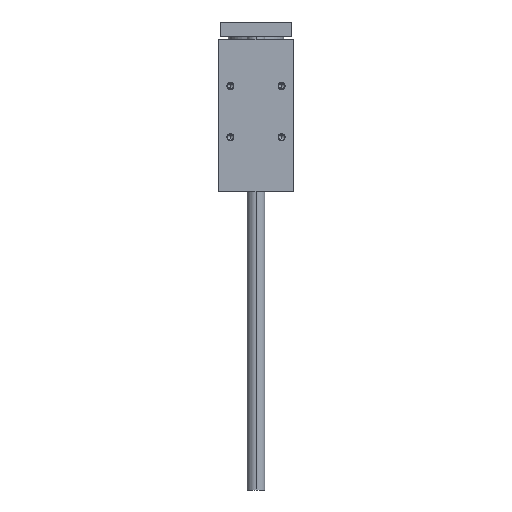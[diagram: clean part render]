
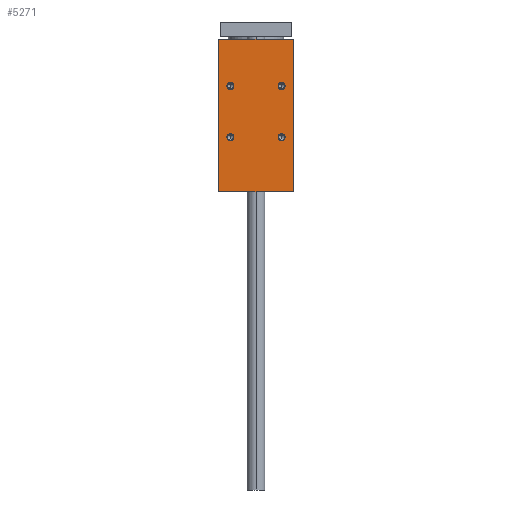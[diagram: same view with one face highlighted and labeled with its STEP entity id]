
A CAD part, left-side view. The second image highlights one B-rep face of the part: STEP entity #5271.
In plain terms, the highlighted planar face has unit normal (-1, 0, 0).
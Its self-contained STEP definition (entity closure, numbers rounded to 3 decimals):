
#15 = CARTESIAN_POINT ( 'NONE',  ( -94.5, -52.5, -128. ) ) ;
#23 = CARTESIAN_POINT ( 'NONE',  ( -94.5, -36., -51. ) ) ;
#136 = FACE_OUTER_BOUND ( 'NONE', #2357, .T. ) ;
#245 = EDGE_CURVE ( 'NONE', #7719, #9258, #3240, .T. ) ;
#288 = EDGE_CURVE ( 'NONE', #3447, #1399, #8954, .T. ) ;
#351 = ORIENTED_EDGE ( 'NONE', *, *, #1312, .T. ) ;
#385 = DIRECTION ( 'NONE',  ( 1., 0., 0. ) ) ;
#591 = DIRECTION ( 'NONE',  ( 1., 0., 0. ) ) ;
#667 = CIRCLE ( 'NONE', #9520, 5. ) ;
#677 = CARTESIAN_POINT ( 'NONE',  ( -94.5, 36., -46. ) ) ;
#882 = EDGE_CURVE ( 'NONE', #8999, #8571, #1658, .T. ) ;
#931 = ORIENTED_EDGE ( 'NONE', *, *, #288, .T. ) ;
#1107 = CARTESIAN_POINT ( 'NONE',  ( -94.5, 52.5, -128. ) ) ;
#1182 = VERTEX_POINT ( 'NONE', #6697 ) ;
#1312 = EDGE_CURVE ( 'NONE', #7479, #3179, #9178, .T. ) ;
#1322 = DIRECTION ( 'NONE',  ( 0., 0., -1. ) ) ;
#1399 = VERTEX_POINT ( 'NONE', #9420 ) ;
#1428 = CARTESIAN_POINT ( 'NONE',  ( -94.5, 36., 21. ) ) ;
#1434 = ORIENTED_EDGE ( 'NONE', *, *, #7464, .T. ) ;
#1474 = CARTESIAN_POINT ( 'NONE',  ( -94.5, 36., 21. ) ) ;
#1596 = DIRECTION ( 'NONE',  ( 0., 0., -1. ) ) ;
#1610 = CARTESIAN_POINT ( 'NONE',  ( -94.5, -52.5, 87. ) ) ;
#1658 = CIRCLE ( 'NONE', #4762, 5. ) ;
#1806 = VECTOR ( 'NONE', #5378, 1000. ) ;
#1955 = EDGE_LOOP ( 'NONE', ( #8333, #931 ) ) ;
#1987 = AXIS2_PLACEMENT_3D ( 'NONE', #5154, #2321, #2960 ) ;
#2214 = DIRECTION ( 'NONE',  ( 0., 0., -1. ) ) ;
#2275 = VERTEX_POINT ( 'NONE', #677 ) ;
#2288 = DIRECTION ( 'NONE',  ( 0., 0., -1. ) ) ;
#2310 = VECTOR ( 'NONE', #6126, 1000. ) ;
#2321 = DIRECTION ( 'NONE',  ( 1., 0., 0. ) ) ;
#2357 = EDGE_LOOP ( 'NONE', ( #351, #5231, #6213, #8564 ) ) ;
#2386 = LINE ( 'NONE', #8321, #2310 ) ;
#2464 = DIRECTION ( 'NONE',  ( 0., 0., -1. ) ) ;
#2821 = CARTESIAN_POINT ( 'NONE',  ( -94.5, 52.5, 87. ) ) ;
#2913 = FACE_BOUND ( 'NONE', #4606, .T. ) ;
#2940 = CARTESIAN_POINT ( 'NONE',  ( -94.5, 36., -56. ) ) ;
#2960 = DIRECTION ( 'NONE',  ( 0., 1., 0. ) ) ;
#3005 = PLANE ( 'NONE',  #1987 ) ;
#3137 = DIRECTION ( 'NONE',  ( 0., 0., 1. ) ) ;
#3147 = CARTESIAN_POINT ( 'NONE',  ( -94.5, 36., -51. ) ) ;
#3179 = VERTEX_POINT ( 'NONE', #1610 ) ;
#3240 = LINE ( 'NONE', #1107, #1806 ) ;
#3273 = CIRCLE ( 'NONE', #8720, 5. ) ;
#3295 = CARTESIAN_POINT ( 'NONE',  ( -94.5, 36., -51. ) ) ;
#3447 = VERTEX_POINT ( 'NONE', #9595 ) ;
#3480 = VECTOR ( 'NONE', #3137, 1000. ) ;
#3785 = VERTEX_POINT ( 'NONE', #7175 ) ;
#3815 = CARTESIAN_POINT ( 'NONE',  ( -94.5, -36., 26. ) ) ;
#3825 = DIRECTION ( 'NONE',  ( 1., 0., 0. ) ) ;
#3901 = CIRCLE ( 'NONE', #6392, 5. ) ;
#4332 = EDGE_LOOP ( 'NONE', ( #9295, #8522 ) ) ;
#4356 = AXIS2_PLACEMENT_3D ( 'NONE', #23, #7404, #2214 ) ;
#4393 = EDGE_CURVE ( 'NONE', #7719, #7479, #2386, .T. ) ;
#4606 = EDGE_LOOP ( 'NONE', ( #8793, #9389 ) ) ;
#4762 = AXIS2_PLACEMENT_3D ( 'NONE', #5023, #7992, #7305 ) ;
#4822 = CARTESIAN_POINT ( 'NONE',  ( -94.5, -36., 16. ) ) ;
#5023 = CARTESIAN_POINT ( 'NONE',  ( -94.5, -36., 21. ) ) ;
#5154 = CARTESIAN_POINT ( 'NONE',  ( -94.5, 52.5, -128. ) ) ;
#5231 = ORIENTED_EDGE ( 'NONE', *, *, #7883, .F. ) ;
#5271 = ADVANCED_FACE ( 'NONE', ( #136, #7332, #2913, #5288, #6702 ), #3005, .F. ) ;
#5288 = FACE_BOUND ( 'NONE', #4332, .T. ) ;
#5304 = DIRECTION ( 'NONE',  ( 0., 0., -1. ) ) ;
#5342 = EDGE_CURVE ( 'NONE', #7085, #2275, #7266, .T. ) ;
#5378 = DIRECTION ( 'NONE',  ( 0., 0., 1. ) ) ;
#5403 = ORIENTED_EDGE ( 'NONE', *, *, #9328, .T. ) ;
#5479 = DIRECTION ( 'NONE',  ( 1., 0., 0. ) ) ;
#5868 = AXIS2_PLACEMENT_3D ( 'NONE', #3295, #5479, #2464 ) ;
#5979 = DIRECTION ( 'NONE',  ( 1., 0., 0. ) ) ;
#6068 = AXIS2_PLACEMENT_3D ( 'NONE', #7976, #591, #1322 ) ;
#6126 = DIRECTION ( 'NONE',  ( 0., -1., 0. ) ) ;
#6213 = ORIENTED_EDGE ( 'NONE', *, *, #245, .F. ) ;
#6392 = AXIS2_PLACEMENT_3D ( 'NONE', #3147, #3825, #1596 ) ;
#6471 = CARTESIAN_POINT ( 'NONE',  ( -94.5, 52.5, -128. ) ) ;
#6697 = CARTESIAN_POINT ( 'NONE',  ( -94.5, 36., 16. ) ) ;
#6702 = FACE_BOUND ( 'NONE', #8670, .T. ) ;
#6706 = DIRECTION ( 'NONE',  ( 0., -1., 0. ) ) ;
#7033 = CARTESIAN_POINT ( 'NONE',  ( -94.5, -36., -51. ) ) ;
#7069 = EDGE_CURVE ( 'NONE', #1399, #3447, #8553, .T. ) ;
#7085 = VERTEX_POINT ( 'NONE', #2940 ) ;
#7175 = CARTESIAN_POINT ( 'NONE',  ( -94.5, 36., 26. ) ) ;
#7266 = CIRCLE ( 'NONE', #5868, 5. ) ;
#7305 = DIRECTION ( 'NONE',  ( 0., 0., -1. ) ) ;
#7332 = FACE_BOUND ( 'NONE', #1955, .T. ) ;
#7404 = DIRECTION ( 'NONE',  ( 1., 0., 0. ) ) ;
#7464 = EDGE_CURVE ( 'NONE', #3785, #1182, #3273, .T. ) ;
#7479 = VERTEX_POINT ( 'NONE', #15 ) ;
#7719 = VERTEX_POINT ( 'NONE', #6471 ) ;
#7883 = EDGE_CURVE ( 'NONE', #9258, #3179, #8078, .T. ) ;
#7973 = EDGE_CURVE ( 'NONE', #8571, #8999, #8108, .T. ) ;
#7976 = CARTESIAN_POINT ( 'NONE',  ( -94.5, -36., 21. ) ) ;
#7992 = DIRECTION ( 'NONE',  ( 1., 0., 0. ) ) ;
#8072 = EDGE_CURVE ( 'NONE', #2275, #7085, #3901, .T. ) ;
#8078 = LINE ( 'NONE', #2821, #9346 ) ;
#8108 = CIRCLE ( 'NONE', #6068, 5. ) ;
#8321 = CARTESIAN_POINT ( 'NONE',  ( -94.5, 52.5, -128. ) ) ;
#8333 = ORIENTED_EDGE ( 'NONE', *, *, #7069, .T. ) ;
#8400 = DIRECTION ( 'NONE',  ( 0., 0., -1. ) ) ;
#8522 = ORIENTED_EDGE ( 'NONE', *, *, #882, .T. ) ;
#8553 = CIRCLE ( 'NONE', #4356, 5. ) ;
#8564 = ORIENTED_EDGE ( 'NONE', *, *, #4393, .T. ) ;
#8571 = VERTEX_POINT ( 'NONE', #3815 ) ;
#8670 = EDGE_LOOP ( 'NONE', ( #1434, #5403 ) ) ;
#8720 = AXIS2_PLACEMENT_3D ( 'NONE', #1428, #8870, #2288 ) ;
#8793 = ORIENTED_EDGE ( 'NONE', *, *, #8072, .T. ) ;
#8870 = DIRECTION ( 'NONE',  ( 1., 0., 0. ) ) ;
#8954 = CIRCLE ( 'NONE', #9591, 5. ) ;
#8999 = VERTEX_POINT ( 'NONE', #4822 ) ;
#9002 = CARTESIAN_POINT ( 'NONE',  ( -94.5, 52.5, 87. ) ) ;
#9125 = CARTESIAN_POINT ( 'NONE',  ( -94.5, -52.5, -128. ) ) ;
#9178 = LINE ( 'NONE', #9125, #3480 ) ;
#9258 = VERTEX_POINT ( 'NONE', #9002 ) ;
#9295 = ORIENTED_EDGE ( 'NONE', *, *, #7973, .T. ) ;
#9328 = EDGE_CURVE ( 'NONE', #1182, #3785, #667, .T. ) ;
#9346 = VECTOR ( 'NONE', #6706, 1000. ) ;
#9389 = ORIENTED_EDGE ( 'NONE', *, *, #5342, .T. ) ;
#9420 = CARTESIAN_POINT ( 'NONE',  ( -94.5, -36., -46. ) ) ;
#9520 = AXIS2_PLACEMENT_3D ( 'NONE', #1474, #5979, #5304 ) ;
#9591 = AXIS2_PLACEMENT_3D ( 'NONE', #7033, #385, #8400 ) ;
#9595 = CARTESIAN_POINT ( 'NONE',  ( -94.5, -36., -56. ) ) ;
